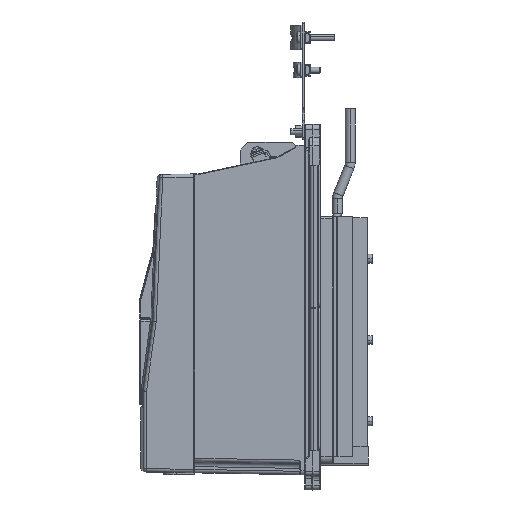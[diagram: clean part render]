
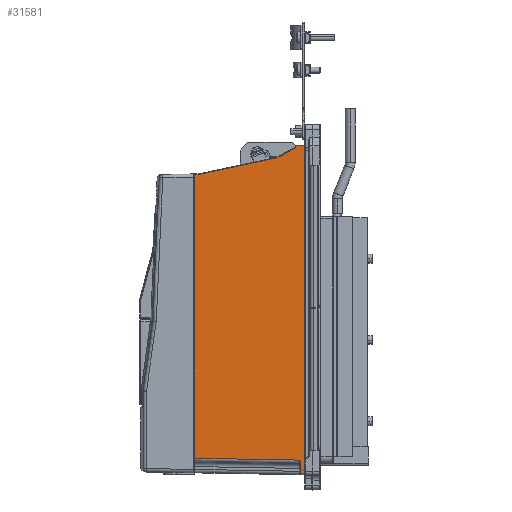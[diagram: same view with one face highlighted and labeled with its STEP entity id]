
A CAD part, left-side view. The second image highlights one B-rep face of the part: STEP entity #31581.
In plain terms, the highlighted planar face has unit normal (-1, 0.018, 0).
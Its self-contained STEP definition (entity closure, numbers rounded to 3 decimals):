
#673 = CARTESIAN_POINT ( 'NONE',  ( -110.658, -44.991, 166. ) ) ;
#2046 = CARTESIAN_POINT ( 'NONE',  ( -110.649, -44.491, 163.917 ) ) ;
#2698 = CARTESIAN_POINT ( 'NONE',  ( -108.809, 58.009, -153.124 ) ) ;
#3673 = VECTOR ( 'NONE', #16021, 1000. ) ;
#4185 = DIRECTION ( 'NONE',  ( 0., 0., -1. ) ) ;
#5724 = EDGE_CURVE ( 'NONE', #27672, #119690, #119058, .T. ) ;
#7343 = CARTESIAN_POINT ( 'NONE',  ( -110.745, -49.84, -156.69 ) ) ;
#8404 = CARTESIAN_POINT ( 'NONE',  ( -110.332, -26.837, 153.723 ) ) ;
#9297 = CARTESIAN_POINT ( 'NONE',  ( -110.328, -26.648, 153.633 ) ) ;
#9576 = CARTESIAN_POINT ( 'NONE',  ( -108.891, 53.455, 136.607 ) ) ;
#11390 =( BOUNDED_CURVE ( )  B_SPLINE_CURVE ( 3, ( #79051, #97994, #56774, #87844 ),
 .UNSPECIFIED., .F., .T. ) 
 B_SPLINE_CURVE_WITH_KNOTS ( ( 4, 4 ),
 ( 4.712, 5.76 ),
 .UNSPECIFIED. ) 
 CURVE ( )  GEOMETRIC_REPRESENTATION_ITEM ( )  RATIONAL_B_SPLINE_CURVE ( ( 1., 0.911, 0.911, 1. ) ) 
 REPRESENTATION_ITEM ( '' )  );
#12539 = VECTOR ( 'NONE', #13592, 1000. ) ;
#13026 = EDGE_LOOP ( 'NONE', ( #66163, #63939, #41634, #103580, #73261, #53921, #89286, #20573, #98147, #67716, #74295, #13276, #34096, #93719 ) ) ;
#13276 = ORIENTED_EDGE ( 'NONE', *, *, #27170, .T. ) ;
#13592 = DIRECTION ( 'NONE',  ( 0., 0., -1. ) ) ;
#15351 = CARTESIAN_POINT ( 'NONE',  ( -108.693, 64.434, -163.895 ) ) ;
#15601 = VERTEX_POINT ( 'NONE', #45293 ) ;
#16021 = DIRECTION ( 'NONE',  ( -0.018, -1., -0.018 ) ) ;
#16345 = CARTESIAN_POINT ( 'NONE',  ( -108.809, 58.009, 170. ) ) ;
#16782 = CARTESIAN_POINT ( 'NONE',  ( -110.747, -49.991, -157.379 ) ) ;
#18724 = CARTESIAN_POINT ( 'NONE',  ( -108.887, 53.646, 136.585 ) ) ;
#18765 = CARTESIAN_POINT ( 'NONE',  ( -110.73, -49.009, -154.992 ) ) ;
#20573 = ORIENTED_EDGE ( 'NONE', *, *, #99512, .F. ) ;
#24287 = CARTESIAN_POINT ( 'NONE',  ( -108.926, 51.493, 137.024 ) ) ;
#26300 = CARTESIAN_POINT ( 'NONE',  ( -108.81, 57.916, 136.51 ) ) ;
#27170 = EDGE_CURVE ( 'NONE', #113469, #105601, #133149, .T. ) ;
#27672 = VERTEX_POINT ( 'NONE', #101701 ) ;
#28260 = CARTESIAN_POINT ( 'NONE',  ( -110.326, -26.545, 153.611 ) ) ;
#28492 = LINE ( 'NONE', #77844, #83679 ) ;
#28568 = LINE ( 'NONE', #29216, #28996 ) ;
#28996 = VECTOR ( 'NONE', #60278, 1000. ) ;
#29216 = CARTESIAN_POINT ( 'NONE',  ( -108.8, 58.5, 166. ) ) ;
#31581 = ADVANCED_FACE ( 'NONE', ( #64529 ), #67224, .F. ) ;
#31911 = VERTEX_POINT ( 'NONE', #104279 ) ;
#32388 = CARTESIAN_POINT ( 'NONE',  ( -110.658, -44.991, 170. ) ) ;
#34096 = ORIENTED_EDGE ( 'NONE', *, *, #122950, .T. ) ;
#35099 = LINE ( 'NONE', #24287, #49798 ) ;
#37582 = CARTESIAN_POINT ( 'NONE',  ( -110.658, -44.991, 164.784 ) ) ;
#38502 = EDGE_CURVE ( 'NONE', #31911, #78664, #106201, .T. ) ;
#39750 = CARTESIAN_POINT ( 'NONE',  ( -110.743, -49.76, -156.465 ) ) ;
#40020 = AXIS2_PLACEMENT_3D ( 'NONE', #85489, #126673, #128028 ) ;
#40855 = CARTESIAN_POINT ( 'NONE',  ( -108.889, 53.518, 136.593 ) ) ;
#41634 = ORIENTED_EDGE ( 'NONE', *, *, #128090, .T. ) ;
#44636 = EDGE_CURVE ( 'NONE', #105564, #68433, #91522, .T. ) ;
#45293 = CARTESIAN_POINT ( 'NONE',  ( -110.747, -49.991, -165.929 ) ) ;
#46629 = VERTEX_POINT ( 'NONE', #673 ) ;
#48998 = CARTESIAN_POINT ( 'NONE',  ( -108.891, 53.455, 136.607 ) ) ;
#49215 = CARTESIAN_POINT ( 'NONE',  ( -110.747, -49.956, -157.147 ) ) ;
#49578 = LINE ( 'NONE', #15351, #3673 ) ;
#49798 = VECTOR ( 'NONE', #56025, 1000. ) ;
#50154 = EDGE_CURVE ( 'NONE', #15601, #78664, #49578, .T. ) ;
#52342 = VECTOR ( 'NONE', #73619, 1000. ) ;
#53921 = ORIENTED_EDGE ( 'NONE', *, *, #90626, .F. ) ;
#53988 = EDGE_CURVE ( 'NONE', #107508, #73079, #35099, .T. ) ;
#55600 =( BOUNDED_CURVE ( )  B_SPLINE_CURVE ( 3, ( #28260, #9297, #101873, #100565 ),
 .UNSPECIFIED., .F., .F. ) 
 B_SPLINE_CURVE_WITH_KNOTS ( ( 4, 4 ),
 ( 4.398, 4.712 ),
 .UNSPECIFIED. ) 
 CURVE ( )  GEOMETRIC_REPRESENTATION_ITEM ( )  RATIONAL_B_SPLINE_CURVE ( ( 1., 0.992, 0.992, 1. ) ) 
 REPRESENTATION_ITEM ( '' )  );
#56025 = DIRECTION ( 'NONE',  ( 0.018, 0.978, -0.208 ) ) ;
#56774 = CARTESIAN_POINT ( 'NONE',  ( -110.658, -44.991, 164.418 ) ) ;
#57579 = DIRECTION ( 'NONE',  ( 0., 0., -1. ) ) ;
#60278 = DIRECTION ( 'NONE',  ( 0.018, 1., 0. ) ) ;
#62631 = CARTESIAN_POINT ( 'NONE',  ( -110.819, -54., -166.001 ) ) ;
#63774 = VECTOR ( 'NONE', #107374, 1000. ) ;
#63939 = ORIENTED_EDGE ( 'NONE', *, *, #69631, .T. ) ;
#64171 = CARTESIAN_POINT ( 'NONE',  ( -110.747, -49.991, -157.617 ) ) ;
#64529 = FACE_OUTER_BOUND ( 'NONE', #13026, .T. ) ;
#66163 = ORIENTED_EDGE ( 'NONE', *, *, #38502, .F. ) ;
#67224 = PLANE ( 'NONE',  #40020 ) ;
#67716 = ORIENTED_EDGE ( 'NONE', *, *, #5724, .T. ) ;
#68433 = VERTEX_POINT ( 'NONE', #8404 ) ;
#69479 = CARTESIAN_POINT ( 'NONE',  ( -110.734, -49.246, -155.402 ) ) ;
#69631 = EDGE_CURVE ( 'NONE', #31911, #46629, #28568, .T. ) ;
#71923 = DIRECTION ( 'NONE',  ( 0.016, 0.866, -0.5 ) ) ;
#73079 = VERTEX_POINT ( 'NONE', #9576 ) ;
#73261 = ORIENTED_EDGE ( 'NONE', *, *, #44636, .T. ) ;
#73619 = DIRECTION ( 'NONE',  ( 0., 0., -1. ) ) ;
#74295 = ORIENTED_EDGE ( 'NONE', *, *, #87578, .T. ) ;
#76435 = LINE ( 'NONE', #87251, #12539 ) ;
#77844 = CARTESIAN_POINT ( 'NONE',  ( -108.699, 64.136, -153.017 ) ) ;
#78109 =( BOUNDED_CURVE ( )  B_SPLINE_CURVE ( 3, ( #92833, #103648, #40855, #48998 ),
 .UNSPECIFIED., .F., .T. ) 
 B_SPLINE_CURVE_WITH_KNOTS ( ( 4, 4 ),
 ( 1.588, 1.78 ),
 .UNSPECIFIED. ) 
 CURVE ( )  GEOMETRIC_REPRESENTATION_ITEM ( )  RATIONAL_B_SPLINE_CURVE ( ( 1., 0.997, 0.997, 1. ) ) 
 REPRESENTATION_ITEM ( '' )  );
#78664 = VERTEX_POINT ( 'NONE', #62631 ) ;
#79051 = CARTESIAN_POINT ( 'NONE',  ( -110.649, -44.491, 163.917 ) ) ;
#80651 = VERTEX_POINT ( 'NONE', #37582 ) ;
#83679 = VECTOR ( 'NONE', #129866, 1000. ) ;
#83806 = CARTESIAN_POINT ( 'NONE',  ( -110.73, -49.009, -154.992 ) ) ;
#85219 = EDGE_CURVE ( 'NONE', #105564, #80651, #11390, .T. ) ;
#85489 = CARTESIAN_POINT ( 'NONE',  ( -108.8, 58.5, 170. ) ) ;
#87251 = CARTESIAN_POINT ( 'NONE',  ( -110.747, -49.991, -165.921 ) ) ;
#87578 = EDGE_CURVE ( 'NONE', #119690, #113469, #28492, .T. ) ;
#87844 = CARTESIAN_POINT ( 'NONE',  ( -110.658, -44.991, 164.784 ) ) ;
#89286 = ORIENTED_EDGE ( 'NONE', *, *, #53988, .T. ) ;
#89760 = CARTESIAN_POINT ( 'NONE',  ( -110.747, -49.991, -157.617 ) ) ;
#90626 = EDGE_CURVE ( 'NONE', #107508, #68433, #55600, .T. ) ;
#91504 = VECTOR ( 'NONE', #71923, 1000. ) ;
#91522 = LINE ( 'NONE', #92181, #91504 ) ;
#92181 = CARTESIAN_POINT ( 'NONE',  ( -110.33, -26.763, 153.681 ) ) ;
#92833 = CARTESIAN_POINT ( 'NONE',  ( -108.887, 53.646, 136.585 ) ) ;
#93719 = ORIENTED_EDGE ( 'NONE', *, *, #50154, .T. ) ;
#93904 = LINE ( 'NONE', #32388, #52342 ) ;
#95195 = VECTOR ( 'NONE', #4185, 1000. ) ;
#96728 = VECTOR ( 'NONE', #57579, 1000. ) ;
#97994 = CARTESIAN_POINT ( 'NONE',  ( -110.654, -44.808, 164.1 ) ) ;
#98147 = ORIENTED_EDGE ( 'NONE', *, *, #119719, .T. ) ;
#99512 = EDGE_CURVE ( 'NONE', #129040, #73079, #78109, .T. ) ;
#100562 = CARTESIAN_POINT ( 'NONE',  ( -110.738, -49.482, -155.814 ) ) ;
#100565 = CARTESIAN_POINT ( 'NONE',  ( -110.332, -26.837, 153.723 ) ) ;
#101701 = CARTESIAN_POINT ( 'NONE',  ( -108.809, 58.009, 136.509 ) ) ;
#101873 = CARTESIAN_POINT ( 'NONE',  ( -110.33, -26.746, 153.671 ) ) ;
#103580 = ORIENTED_EDGE ( 'NONE', *, *, #85219, .F. ) ;
#103648 = CARTESIAN_POINT ( 'NONE',  ( -108.888, 53.582, 136.586 ) ) ;
#104279 = CARTESIAN_POINT ( 'NONE',  ( -110.819, -54., 166. ) ) ;
#105564 = VERTEX_POINT ( 'NONE', #2046 ) ;
#105601 = VERTEX_POINT ( 'NONE', #64171 ) ;
#106201 = LINE ( 'NONE', #108204, #95195 ) ;
#107374 = DIRECTION ( 'NONE',  ( 0.018, 1., -0.017 ) ) ;
#107508 = VERTEX_POINT ( 'NONE', #125847 ) ;
#108204 = CARTESIAN_POINT ( 'NONE',  ( -110.819, -54., 170. ) ) ;
#113469 = VERTEX_POINT ( 'NONE', #83806 ) ;
#117526 = LINE ( 'NONE', #26300, #63774 ) ;
#119058 = LINE ( 'NONE', #16345, #96728 ) ;
#119690 = VERTEX_POINT ( 'NONE', #2698 ) ;
#119719 = EDGE_CURVE ( 'NONE', #129040, #27672, #117526, .T. ) ;
#122950 = EDGE_CURVE ( 'NONE', #105601, #15601, #76435, .T. ) ;
#125847 = CARTESIAN_POINT ( 'NONE',  ( -110.326, -26.545, 153.611 ) ) ;
#126673 = DIRECTION ( 'NONE',  ( 1., -0.018, 0. ) ) ;
#128028 = DIRECTION ( 'NONE',  ( 0.018, 1., 0. ) ) ;
#128090 = EDGE_CURVE ( 'NONE', #46629, #80651, #93904, .T. ) ;
#129040 = VERTEX_POINT ( 'NONE', #18724 ) ;
#129866 = DIRECTION ( 'NONE',  ( -0.018, -1., -0.017 ) ) ;
#133149 = B_SPLINE_CURVE_WITH_KNOTS ( 'NONE', 3,
 ( #18765, #69479, #100562, #39750, #7343, #49215, #16782, #89760 ),
 .UNSPECIFIED., .F., .F.,
 ( 4, 2, 2, 4 ),
 ( 0., 0.001, 0.002, 0.003 ),
 .UNSPECIFIED. ) ;
